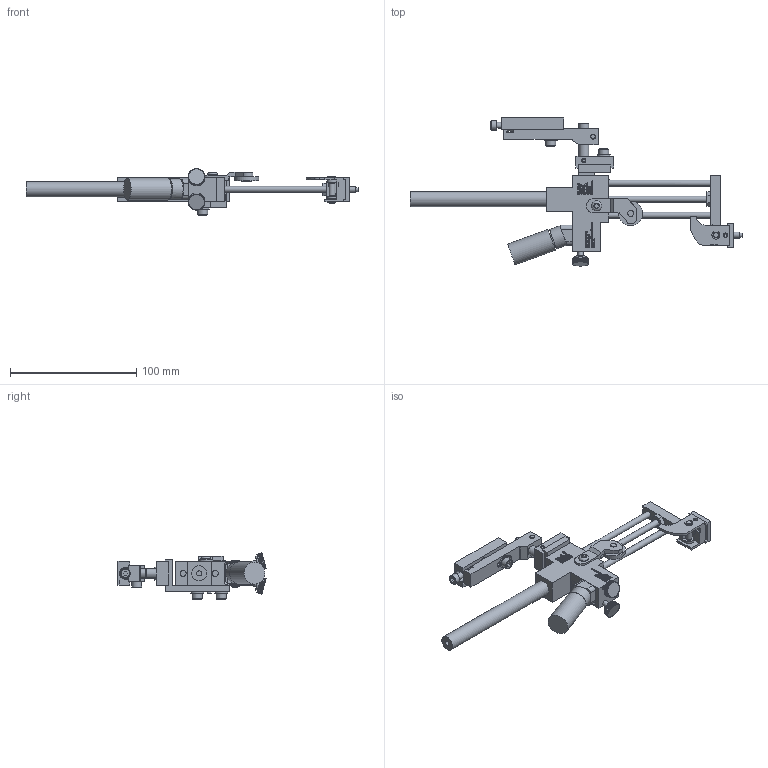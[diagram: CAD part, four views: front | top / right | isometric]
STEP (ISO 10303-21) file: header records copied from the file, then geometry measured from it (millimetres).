
FILE_DESCRIPTION((''),'2;1');
FILE_NAME('C:\Documents and Settings\Ron\My Documents\Inventor\Sprinter Drawing\Machines in Inventor\Model 44\Dot\1-eight\Ext Str\E1\Brkt\Ext\Model 44 ES1 .125 Dia Dot Ext w brkt.stp','2009-01-14T12:53:29',('Ron'),(''),'Autodesk Inventor 2008','Autodesk Inventor 2008','');
FILE_SCHEMA(('AUTOMOTIVE_DESIGN { 1 0 10303 214 1 1 1 1 }'));
Length unit declared in the file: inch
Products named in the file (1): Model 44 ES1 .125 Dia Dot Ext w brkt
Bounding box: 262.65 x 117.12 x 36.82 mm (x, y, z)
Volume: 108477.9 mm3; surface area: 52830 mm2
Topology: 383 solids, 383 shells, 6189 faces, 15357 edges, 9492 vertices
Faces by surface type: plane 4349, bspline 1317, cylinder 470, cone 48, torus 5
Full cylindrical faces by diameter (mm): 3.175 x5, 3.302 x1, 3.962 x1, 4.064 x7, 4.166 x1, 4.699 x1, 4.75 x4, 4.775 x1, 4.826 x8, 5.144 x1, 5.156 x5, 5.207 x2, 5.41 x2, 6.096 x1, 6.274 x2, 7.239 x1, 7.62 x1, 7.925 x7, 7.938 x1, 8.128 x1, 9.017 x1, 9.525 x2, 10.312 x4, 10.922 x1, 11.036 x1, 11.938 x2, 14.478 x1, 16.256 x1, 17.272 x1, 19.05 x1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
Entity records: 196977 total; most frequent: CARTESIAN_POINT 53968, ORIENTED_EDGE 30264, DIRECTION 23487, EDGE_CURVE 15132, VECTOR 11377, LINE 11377, VERTEX_POINT 9423, EDGE_LOOP 6739
